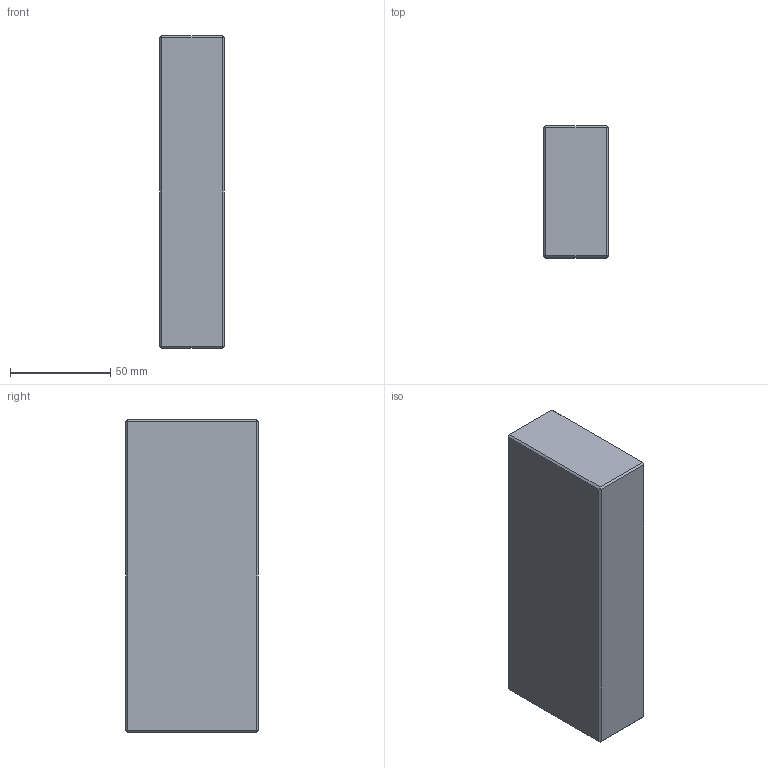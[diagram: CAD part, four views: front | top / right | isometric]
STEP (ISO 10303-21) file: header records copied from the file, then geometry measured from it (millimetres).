
FILE_DESCRIPTION (( 'STEP AP214' ), '1' );
FILE_NAME ('ESP-P-156X156x66.STEP', '2020-04-08T10:10:36', ( 'August' ), ( '' ), 'SwSTEP 2.0', 'SolidWorks 2018', '' );
FILE_SCHEMA (( 'AUTOMOTIVE_DESIGN' ));
Length unit declared in the file: millimetre
Products named in the file (1): ESP-P-156X156x66
Bounding box: 32 x 66 x 156 mm (x, y, z)
Volume: 328969.3 mm3; surface area: 34201.8 mm2
Topology: 1 solids, 1 shells, 26 faces, 48 edges, 24 vertices
Faces by surface type: plane 26
Entity records: 634 total; most frequent: DIRECTION 102, CARTESIAN_POINT 99, ORIENTED_EDGE 96, EDGE_CURVE 48, VECTOR 48, LINE 48, AXIS2_PLACEMENT_3D 27, EDGE_LOOP 26
